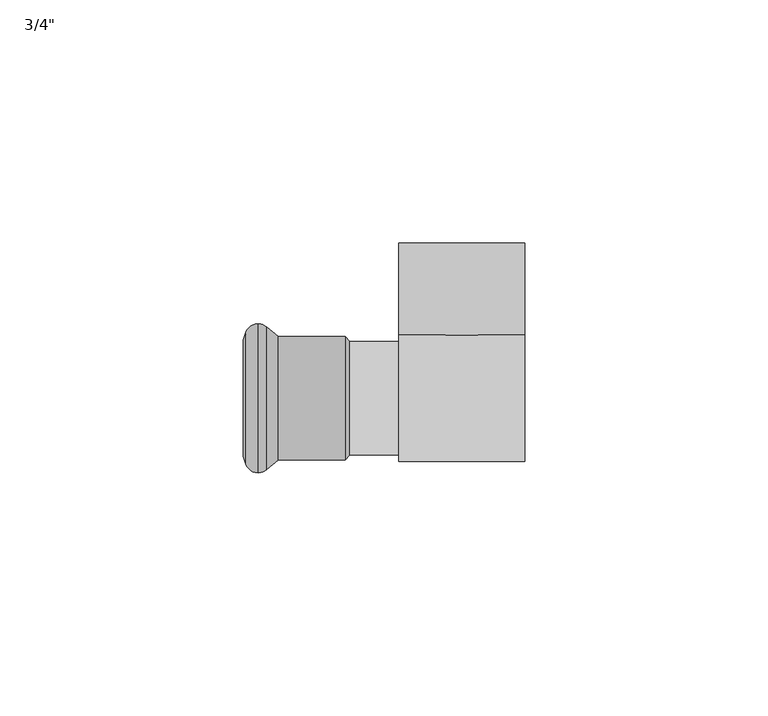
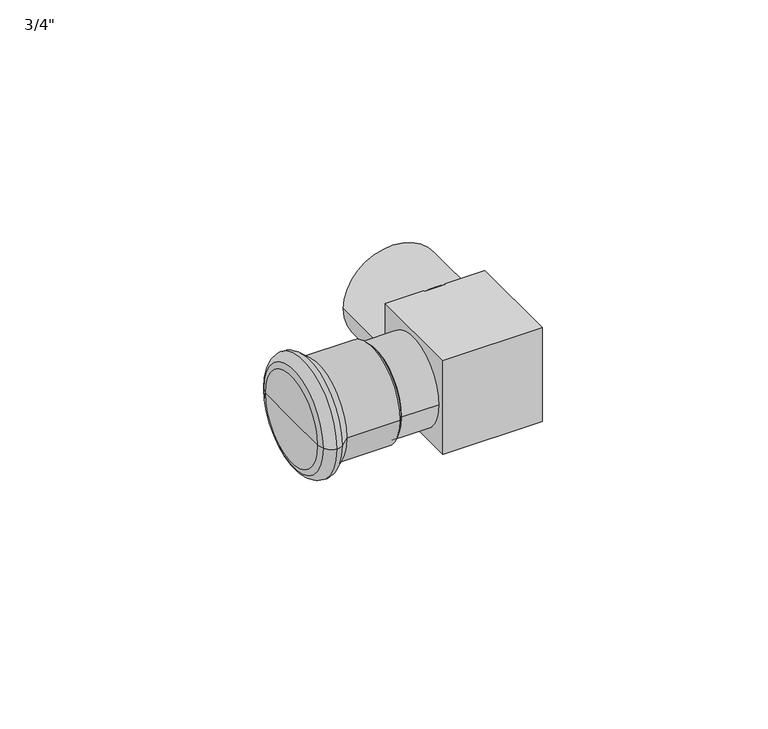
"""IFC4 building model written with IfcOpenShell, lengths in millimetres: pipe fitting geometry."""

from ifc_helpers import new_model, si_unit, point, frame, origin, origin_2d, place, context, project, spatial, polyline, circle_curve, ellipse_curve, trimmed, segment, composite_curve, outline, extrude, source, transform, mapped, element, save
from ifc_brep_helpers import plane_surface, cylinder_surface, revolved_surface, advanced_brep


def pipe_fitting_d7101d84(model_context):
    return source(origin(), model_context, "Body", "SolidModel", [
        extrude(outline(composite_curve([segment(trimmed(circle_curve(origin_2d(), 13.0), [point((0.0, -13.0))], [point((0.0, 13.0))], False, "CARTESIAN"), True, "CONTINUOUS"), segment(trimmed(circle_curve(origin_2d(), 13.0), [point((0.0, 13.0))], [point((0.0, -13.0))], False, "CARTESIAN"), True, "CONTINUOUS")], self_intersect=False)), frame((0.0, 13.0, 0.0), z_axis=(0.0, 1.0, 0.0), x_axis=(0.0, 0.0, 1.0)), (0.0, 0.0, 1.0), 19.0),
        extrude(outline(polyline([(-13.0, -13.0), (-13.0, 13.0), (13.0, 13.0), (13.0, -13.0), (-13.0, -13.0)])), frame((0.0, 0.0, -13.0), z_axis=(0.0, 0.0, 1.0), x_axis=(1.0, 0.0, 0.0)), (0.0, 0.0, 1.0), 26.0),
        extrude(outline(composite_curve([segment(trimmed(circle_curve(origin_2d(), 11.7), [point((11.7, 0.0))], [point((-11.7, 0.0))], False, "CARTESIAN"), True, "CONTINUOUS"), segment(trimmed(circle_curve(origin_2d(), 11.7), [point((-11.7, 0.0))], [point((11.7, 0.0))], False, "CARTESIAN"), True, "CONTINUOUS")], self_intersect=False)), frame((-23.0, 0.0, 0.0), z_axis=(1.0, 0.0, 0.0), x_axis=(0.0, 1.0, 0.0)), (0.0, 0.0, 1.0), 10.0),
        advanced_brep(
        [(-37.7838092, -12.7, 0.0), (-37.7838092, 12.7, 0.0), (-24.0, 12.7, 0.0), (-24.0, -12.7, 0.0), (-40.0922627, -14.6370225, 0.0), (-40.0922627, 14.6370225, 0.0), (-41.8921278, -15.325, 0.0), (-41.8921278, 15.325, 0.0), (-44.432052, -13.5484544, 0.0), (-44.432052, 13.5484544, 0.0), (-45.0, -11.9880302, 0.0), (-45.0, 11.9880302, 0.0), (-45.0, 0.0, 0.0), (-23.0, 11.7, 0.0), (-23.0, -11.7, 0.0), (-23.0, 0.0, 0.0)],
        [
            (0, 1, circle_curve(frame((-37.7838092, 0.0, 0.0), z_axis=(1.0, 0.0, 0.0), x_axis=(0.0, 1.0, 0.0)), 12.7)),
            (1, 2),
            (2, 3, circle_curve(frame((-24.0, 0.0, 0.0), z_axis=(-1.0, 0.0, 0.0), x_axis=(0.0, 1.0, 0.0)), 12.7)),
            (3, 0),
            (1, 0, circle_curve(frame((-37.7838092, 0.0, 0.0), z_axis=(1.0, 0.0, 0.0), x_axis=(0.0, 1.0, 0.0)), 12.7)),
            (3, 2, circle_curve(frame((-24.0, 0.0, 0.0), z_axis=(-1.0, 0.0, 0.0), x_axis=(0.0, 1.0, 0.0)), 12.7)),
            (4, 5, circle_curve(frame((-40.0922627, 0.0, 0.0), z_axis=(1.0, 0.0, 0.0), x_axis=(0.0, 1.0, 0.0)), 14.6370225)),
            (5, 1),
            (0, 4),
            (5, 4, circle_curve(frame((-40.0922627, 0.0, 0.0), z_axis=(1.0, 0.0, 0.0), x_axis=(0.0, 1.0, 0.0)), 14.6370225)),
            (6, 7, circle_curve(frame((-41.8921278, 0.0, 0.0), z_axis=(1.0, 0.0, 0.0), x_axis=(0.0, 1.0, 0.0)), 15.325)),
            (7, 5, circle_curve(frame((-41.8935049, 12.6230333, 0.0), z_axis=(0.0, 0.0, -1.0), x_axis=(1.0, 0.0, 0.0)), 2.701967)),
            (4, 6, circle_curve(frame((-41.8935049, -12.6230333, 0.0), z_axis=(0.0, 0.0, -1.0), x_axis=(1.0, 0.0, 0.0)), 2.701967)),
            (7, 6, circle_curve(frame((-41.8921278, 0.0, 0.0), z_axis=(1.0, 0.0, 0.0), x_axis=(0.0, 1.0, 0.0)), 15.325)),
            (8, 9, circle_curve(frame((-44.432052, 0.0, 0.0), z_axis=(1.0, 0.0, 0.0), x_axis=(0.0, 1.0, 0.0)), 13.5484544)),
            (9, 7, circle_curve(frame((-41.89488, 12.6249993, 0.0), z_axis=(0.0, 0.0, -1.0), x_axis=(1.0, 0.0, 0.0)), 2.7000021)),
            (6, 8, circle_curve(frame((-41.89488, -12.6249993, 0.0), z_axis=(0.0, 0.0, -1.0), x_axis=(1.0, 0.0, 0.0)), 2.7000021)),
            (9, 8, circle_curve(frame((-44.432052, 0.0, 0.0), z_axis=(1.0, 0.0, 0.0), x_axis=(0.0, 1.0, 0.0)), 13.5484544)),
            (10, 11, circle_curve(frame((-45.0, 0.0, 0.0), z_axis=(1.0, 0.0, 0.0), x_axis=(0.0, 1.0, 0.0)), 11.9880302)),
            (11, 9),
            (8, 10),
            (11, 10, circle_curve(frame((-45.0, 0.0, 0.0), z_axis=(1.0, 0.0, 0.0), x_axis=(0.0, 1.0, 0.0)), 11.9880302)),
            (12, 11),
            (10, 12),
            (2, 13),
            (13, 14, circle_curve(frame((-23.0, 0.0, 0.0), z_axis=(-1.0, 0.0, 0.0), x_axis=(0.0, 1.0, 0.0)), 11.7)),
            (14, 3),
            (14, 13, circle_curve(frame((-23.0, 0.0, 0.0), z_axis=(-1.0, 0.0, 0.0), x_axis=(0.0, 1.0, 0.0)), 11.7)),
            (13, 15),
            (15, 14),
        ],
        [
            cylinder_surface(frame((1334.742668, 0.0, 0.0), z_axis=(-1.0, 0.0, 0.0), x_axis=(0.0, 1.0, 0.0)), 12.7),
            revolved_surface(polyline([(-37.7838092, 12.7, 0.0), (-40.0922627, 14.6370225, 0.0)]), (1334.742668, 0.0, 0.0), (-1.0, 0.0, 0.0)),
            revolved_surface(trimmed(ellipse_curve(frame((-41.8935049, 12.6230333, 0.0), z_axis=(0.0, 0.0, 1.0), x_axis=(1.0, 0.0, 0.0)), 2.701967, 2.701967), [point((-40.0922627, 14.6370225, 0.0))], [point((-41.8921278, 15.325, 0.0))], True, "CARTESIAN"), (1334.742668, 0.0, 0.0), (-1.0, 0.0, 0.0)),
            revolved_surface(trimmed(ellipse_curve(frame((-41.89488, 12.6249993, 0.0), z_axis=(0.0, 0.0, 1.0), x_axis=(1.0, 0.0, 0.0)), 2.7000021, 2.7000021), [point((-41.8921278, 15.325, 0.0))], [point((-44.432052, 13.5484544, 0.0))], True, "CARTESIAN"), (1334.742668, 0.0, 0.0), (-1.0, 0.0, 0.0)),
            revolved_surface(polyline([(-44.432052, 13.5484544, 0.0), (-45.0, 11.9880302, 0.0)]), (1334.742668, 0.0, 0.0), (-1.0, 0.0, 0.0)),
            plane_surface(frame((-45.0, 0.0, 0.0), z_axis=(-1.0, 0.0, 0.0), x_axis=(0.0, 1.0, 0.0))),
            revolved_surface(polyline([(-23.0, 11.7, 0.0), (-24.0, 12.7, 0.0)]), (1334.742668, 0.0, 0.0), (-1.0, 0.0, 0.0)),
            plane_surface(frame((-23.0, 0.0, 0.0), z_axis=(1.0, 0.0, 0.0), x_axis=(0.0, 1.0, 0.0))),
        ],
        [
            (0, [[1, 2, 3, 4]]),
            (0, [[5, -4, 6, -2]]),
            (1, [[7, 8, -1, 9]]),
            (1, [[10, -9, -5, -8]]),
            (2, [[11, 12, -7, 13]]),
            (2, [[14, -13, -10, -12]]),
            (3, [[15, 16, -11, 17]]),
            (3, [[18, -17, -14, -16]]),
            (4, [[19, 20, -15, 21]]),
            (4, [[22, -21, -18, -20]]),
            (5, [[23, -19, 24]]),
            (5, [[-24, -22, -23]]),
            (6, [[-3, 25, 26, 27]]),
            (6, [[-6, -27, 28, -25]]),
            (7, [[-26, 29, 30]]),
            (7, [[-28, -30, -29]]),
        ],
    ),
    ])


if __name__ == "__main__":
    model = new_model("IFC4")
    model_context = context("Model", 3, world=origin())
    ifc_project = project(units=[si_unit("LENGTHUNIT", "METRE", prefix="MILLI")], contexts=[model_context])
    site = spatial("IfcSite", under=ifc_project)
    building = spatial("IfcBuilding", under=site)
    placement = place(None, origin())
    pipe_fitting_shape = pipe_fitting_d7101d84(model_context)
    element("IfcPipeFitting", 1, ObjectType="KAN-therm Steel kolano z GZ krótkie : 3/4\"", at=placement, inside=building, context=model_context, shape_type="MappedRepresentation", body=[
        mapped(pipe_fitting_shape, transform((0.0, 0.0, 0.0), x_axis=(1.0, 0.0, 0.0), y_axis=(0.0, 1.0, 0.0), z_axis=(0.0, 0.0, 1.0))),
    ])
    save(model, "model.ifc")
